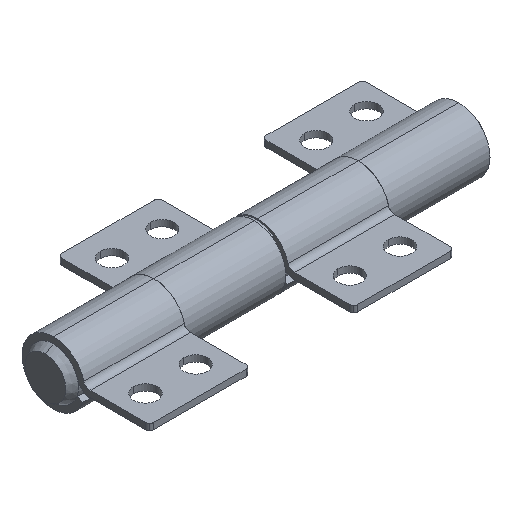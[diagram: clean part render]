
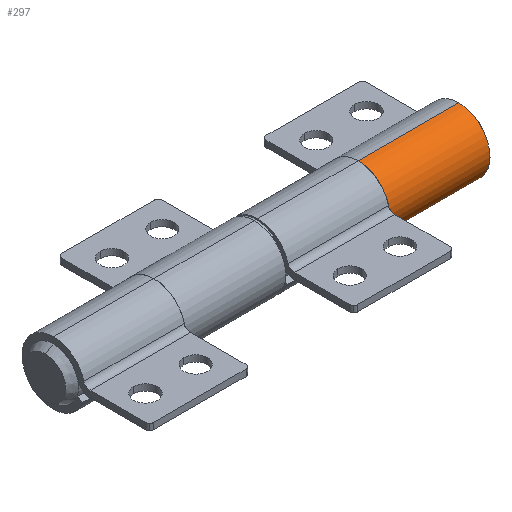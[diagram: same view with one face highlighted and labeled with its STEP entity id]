
A CAD part, isometric view. The second image highlights one B-rep face of the part: STEP entity #297.
In plain terms, the highlighted cylindrical face has radius 5.963 mm (diameter 11.925 mm), a partial arc.
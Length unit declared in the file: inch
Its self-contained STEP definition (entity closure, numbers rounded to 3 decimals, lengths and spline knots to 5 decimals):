
#297=ADVANCED_FACE('',(#634),#635,.T.);
#634=FACE_OUTER_BOUND('',#1049,.T.);
#635=CYLINDRICAL_SURFACE('',#1050,0.23474);
#1049=EDGE_LOOP('',(#1742,#1743,#1744,#1745));
#1050=AXIS2_PLACEMENT_3D('',#1746,#1747,#1748);
#1742=ORIENTED_EDGE('',*,*,#2623,.T.);
#1743=ORIENTED_EDGE('',*,*,#2624,.F.);
#1744=ORIENTED_EDGE('',*,*,#2625,.T.);
#1745=ORIENTED_EDGE('',*,*,#2626,.F.);
#1746=CARTESIAN_POINT('',(-6.59285,-6.,0.));
#1747=DIRECTION('',(-1.0,0.,0.));
#1748=DIRECTION('',(0.,0.,-1.0));
#2623=EDGE_CURVE('',#3215,#3216,#3217,.T.);
#2624=EDGE_CURVE('',#3218,#3216,#3219,.T.);
#2625=EDGE_CURVE('',#3218,#3220,#3221,.T.);
#2626=EDGE_CURVE('',#3215,#3220,#3222,.T.);
#3215=VERTEX_POINT('',#3958);
#3216=VERTEX_POINT('',#3959);
#3217=LINE('',#3960,#3961);
#3218=VERTEX_POINT('',#3962);
#3219=CIRCLE('',#3963,0.23474);
#3220=VERTEX_POINT('',#3964);
#3221=LINE('',#3965,#3966);
#3222=CIRCLE('',#3967,0.23474);
#3958=CARTESIAN_POINT('',(-6.59285,-6.,-0.23474));
#3959=CARTESIAN_POINT('',(-5.84285,-6.,-0.23474));
#3960=CARTESIAN_POINT('',(-6.59285,-6.,-0.23474));
#3961=VECTOR('',#4636,1.0);
#3962=CARTESIAN_POINT('',(-5.84285,-6.,0.23474));
#3963=AXIS2_PLACEMENT_3D('',#4637,#4638,#4639);
#3964=CARTESIAN_POINT('',(-6.59285,-6.,0.23474));
#3965=CARTESIAN_POINT('',(-6.59285,-6.,0.23474));
#3966=VECTOR('',#4640,1.0);
#3967=AXIS2_PLACEMENT_3D('',#4641,#4642,#4643);
#4636=DIRECTION('',(1.0,0.,0.));
#4637=CARTESIAN_POINT('',(-5.84285,-6.,0.));
#4638=DIRECTION('',(1.0,0.,0.));
#4639=DIRECTION('',(0.,0.,-1.0));
#4640=DIRECTION('',(-1.0,0.,0.));
#4641=CARTESIAN_POINT('',(-6.59285,-6.,0.));
#4642=DIRECTION('',(-1.0,0.,0.));
#4643=DIRECTION('',(0.,0.,-1.0));
